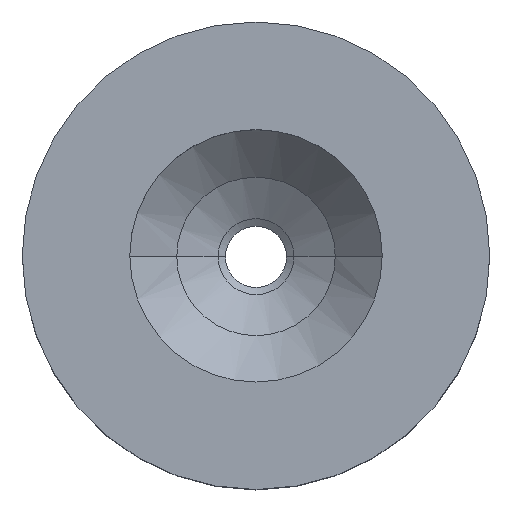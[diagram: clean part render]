
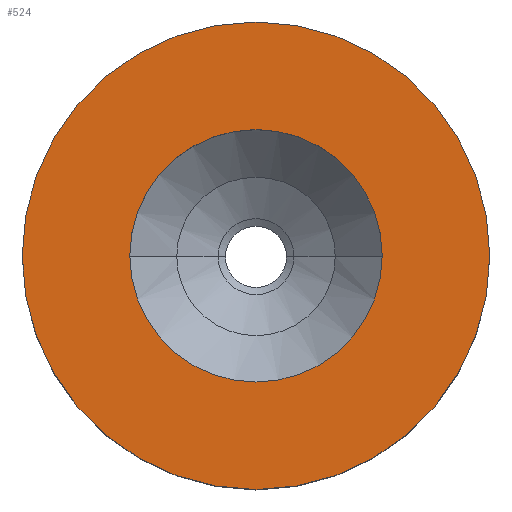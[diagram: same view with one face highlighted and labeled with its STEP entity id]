
A CAD part, top view. The second image highlights one B-rep face of the part: STEP entity #524.
In plain terms, the highlighted planar face has unit normal (0, 0, 1).
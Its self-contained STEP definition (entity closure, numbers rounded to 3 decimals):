
#28 = AXIS2_PLACEMENT_3D ( 'NONE', #701, #506, #129 ) ;
#45 = CIRCLE ( 'NONE', #133, 2.7 ) ;
#57 = DIRECTION ( 'NONE',  ( 1., 0., 0. ) ) ;
#82 = EDGE_CURVE ( 'NONE', #765, #933, #260, .T. ) ;
#83 = DIRECTION ( 'NONE',  ( 1., 0., 0. ) ) ;
#129 = DIRECTION ( 'NONE',  ( 1., 0., 0. ) ) ;
#133 = AXIS2_PLACEMENT_3D ( 'NONE', #948, #503, #57 ) ;
#141 = DIRECTION ( 'NONE',  ( -1., 0., 0. ) ) ;
#189 = EDGE_LOOP ( 'NONE', ( #363, #236 ) ) ;
#229 = VERTEX_POINT ( 'NONE', #454 ) ;
#233 = CIRCLE ( 'NONE', #28, 2.7 ) ;
#236 = ORIENTED_EDGE ( 'NONE', *, *, #796, .F. ) ;
#260 = CIRCLE ( 'NONE', #280, 5. ) ;
#278 = VERTEX_POINT ( 'NONE', #398 ) ;
#280 = AXIS2_PLACEMENT_3D ( 'NONE', #736, #434, #83 ) ;
#363 = ORIENTED_EDGE ( 'NONE', *, *, #462, .F. ) ;
#367 = ORIENTED_EDGE ( 'NONE', *, *, #82, .T. ) ;
#379 = EDGE_LOOP ( 'NONE', ( #367, #603 ) ) ;
#397 = CARTESIAN_POINT ( 'NONE',  ( -5., 0., 0. ) ) ;
#398 = CARTESIAN_POINT ( 'NONE',  ( -2.7, 0., 0. ) ) ;
#434 = DIRECTION ( 'NONE',  ( 0., 0., 1. ) ) ;
#454 = CARTESIAN_POINT ( 'NONE',  ( 2.7, 0., 0. ) ) ;
#462 = EDGE_CURVE ( 'NONE', #229, #278, #45, .T. ) ;
#464 = DIRECTION ( 'NONE',  ( 1., 0., 0. ) ) ;
#503 = DIRECTION ( 'NONE',  ( 0., 0., 1. ) ) ;
#506 = DIRECTION ( 'NONE',  ( 0., 0., 1. ) ) ;
#517 = PLANE ( 'NONE',  #815 ) ;
#524 = ADVANCED_FACE ( 'NONE', ( #720, #895 ), #517, .F. ) ;
#588 = DIRECTION ( 'NONE',  ( 0., 0., -1. ) ) ;
#603 = ORIENTED_EDGE ( 'NONE', *, *, #714, .T. ) ;
#636 = CARTESIAN_POINT ( 'NONE',  ( 0., 0., 0. ) ) ;
#698 = AXIS2_PLACEMENT_3D ( 'NONE', #636, #783, #464 ) ;
#701 = CARTESIAN_POINT ( 'NONE',  ( 0., 0., 0. ) ) ;
#714 = EDGE_CURVE ( 'NONE', #933, #765, #880, .T. ) ;
#720 = FACE_BOUND ( 'NONE', #189, .T. ) ;
#735 = CARTESIAN_POINT ( 'NONE',  ( 0., 0., 0. ) ) ;
#736 = CARTESIAN_POINT ( 'NONE',  ( 0., 0., 0. ) ) ;
#746 = CARTESIAN_POINT ( 'NONE',  ( 5., 0., 0. ) ) ;
#765 = VERTEX_POINT ( 'NONE', #746 ) ;
#783 = DIRECTION ( 'NONE',  ( 0., 0., 1. ) ) ;
#796 = EDGE_CURVE ( 'NONE', #278, #229, #233, .T. ) ;
#815 = AXIS2_PLACEMENT_3D ( 'NONE', #735, #588, #141 ) ;
#880 = CIRCLE ( 'NONE', #698, 5. ) ;
#895 = FACE_OUTER_BOUND ( 'NONE', #379, .T. ) ;
#933 = VERTEX_POINT ( 'NONE', #397 ) ;
#948 = CARTESIAN_POINT ( 'NONE',  ( 0., 0., 0. ) ) ;
